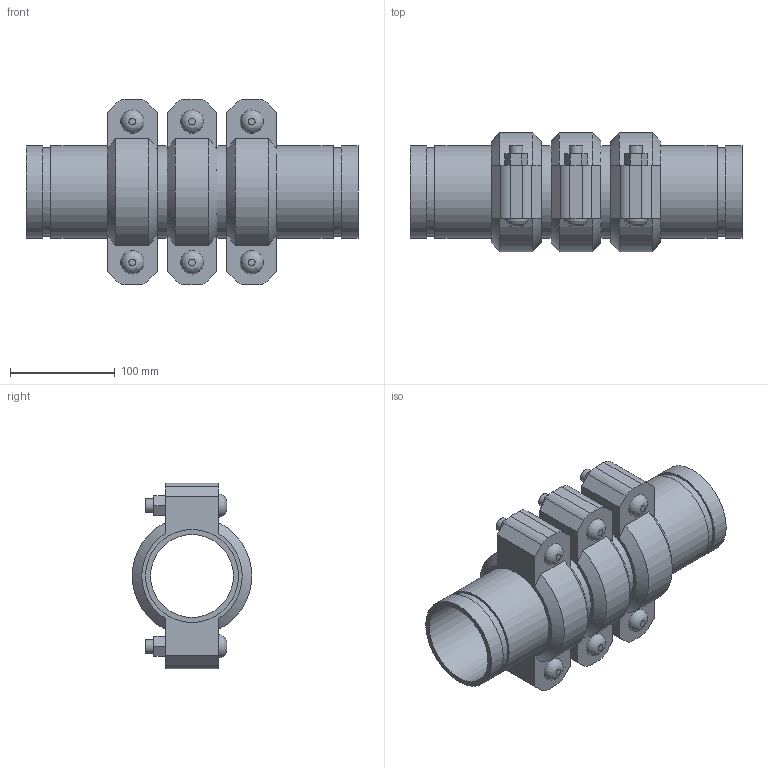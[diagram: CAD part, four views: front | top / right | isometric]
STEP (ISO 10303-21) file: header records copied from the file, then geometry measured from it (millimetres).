
FILE_DESCRIPTION(/* description */ ('VIC SS EXPANSION JOINT 3 COUPLINGS COMPRESSED STYLE 155P (OGS) (POTABLE WATER) ','CAx-IF Rec.Pracs.---Representation and Presentation of Product Manufacturing Information (PMI)---4.0---2014-10-13'),/* implementation_level */ '2;1');
FILE_NAME(/* name */ 'C:\Users\kkamble\AppData\Roaming\Autodesk\ApplicationPlugins\Victaulic.Temp\A254\Victaulic_SS_Expansion Joint_Compressed_3 Couplings_Style 155P (OGS)-Potable Water_3 Coup_Comp_3 (80).stp',/* time_stamp */ '2021-07-16T17:10:47+06:00',/* author */ ('kkamble'),/* organization */ ('Victaulic'),/* preprocessor_version */ 'ST-DEVELOPER v17.2',/* originating_system */ 'Autodesk Inventor 2019',/* authorisation */ '');
FILE_SCHEMA (('AP242_MANAGED_MODEL_BASED_3D_ENGINEERING_MIM_LF { 1 0 10303 442 1 1 4 }'));
Length unit declared in the file: inch
Products named in the file (4): 155P-03.0; Nipple-03.0; Nipple-03.0_1; 075-03.0
Assembly tree (7 placements, depth 2):
  155P-03.0
    Nipple-03.0  x2
    Nipple-03.0_1  x2
    075-03.0  x3
Bounding box: 317.5 x 113.88 x 177.8 mm (x, y, z)
Volume: 1362954.4 mm3; surface area: 363806.7 mm2
Topology: 7 solids, 13 shells, 207 faces, 501 edges, 354 vertices
Faces by surface type: plane 126, cylinder 63, cone 12, bspline 6
Full cylindrical faces by diameter (mm): 12.7 x12, 14.605 x6, 79.35 x4, 84.938 x8, 88.9 x15
Entity records: 2657 total; most frequent: CARTESIAN_POINT 477, DIRECTION 439, ORIENTED_EDGE 374, EDGE_CURVE 187, AXIS2_PLACEMENT_3D 174, VERTEX_POINT 134, EDGE_LOOP 101, LINE 91
